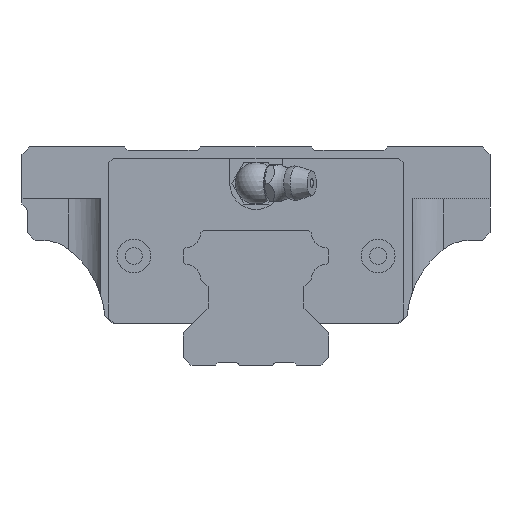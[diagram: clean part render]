
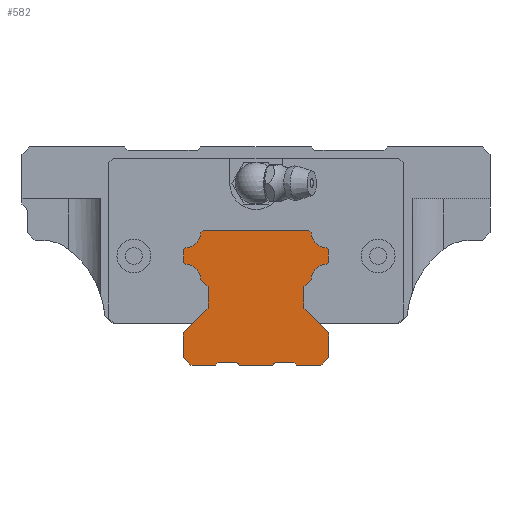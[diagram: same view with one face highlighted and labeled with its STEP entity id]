
A CAD part, front view. The second image highlights one B-rep face of the part: STEP entity #582.
In plain terms, the highlighted planar face has unit normal (0, -1, 0).
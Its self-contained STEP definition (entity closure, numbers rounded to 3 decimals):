
#366=CIRCLE('',#4144,3.1);
#368=CIRCLE('',#4150,3.1);
#379=CIRCLE('',#4183,3.1);
#381=CIRCLE('',#4189,3.1);
#582=ADVANCED_FACE('',(#922),#740,.T.);
#740=PLANE('',#4191);
#922=FACE_OUTER_BOUND('',#1160,.T.);
#1160=EDGE_LOOP('',(#2126,#2127,#2128,#2129,#2130,#2131,#2132,#2133,#2134,
#2135,#2136,#2137,#2138,#2139,#2140,#2141,#2142,#2143,#2144,#2145,#2146,
#2147,#2148,#2149,#2150,#2151,#2152,#2153,#2154,#2155,#2156,#2157));
#2126=ORIENTED_EDGE('',*,*,#3022,.T.);
#2127=ORIENTED_EDGE('',*,*,#3030,.F.);
#2128=ORIENTED_EDGE('',*,*,#3033,.F.);
#2129=ORIENTED_EDGE('',*,*,#3036,.F.);
#2130=ORIENTED_EDGE('',*,*,#3039,.F.);
#2131=ORIENTED_EDGE('',*,*,#3042,.T.);
#2132=ORIENTED_EDGE('',*,*,#3045,.T.);
#2133=ORIENTED_EDGE('',*,*,#3048,.F.);
#2134=ORIENTED_EDGE('',*,*,#3051,.T.);
#2135=ORIENTED_EDGE('',*,*,#3054,.T.);
#2136=ORIENTED_EDGE('',*,*,#3057,.F.);
#2137=ORIENTED_EDGE('',*,*,#3060,.T.);
#2138=ORIENTED_EDGE('',*,*,#3063,.T.);
#2139=ORIENTED_EDGE('',*,*,#3066,.F.);
#2140=ORIENTED_EDGE('',*,*,#3069,.T.);
#2141=ORIENTED_EDGE('',*,*,#3073,.T.);
#2142=ORIENTED_EDGE('',*,*,#3012,.F.);
#2143=ORIENTED_EDGE('',*,*,#3080,.T.);
#2144=ORIENTED_EDGE('',*,*,#3019,.T.);
#2145=ORIENTED_EDGE('',*,*,#3088,.F.);
#2146=ORIENTED_EDGE('',*,*,#3093,.F.);
#2147=ORIENTED_EDGE('',*,*,#3096,.T.);
#2148=ORIENTED_EDGE('',*,*,#3099,.F.);
#2149=ORIENTED_EDGE('',*,*,#3102,.F.);
#2150=ORIENTED_EDGE('',*,*,#3105,.F.);
#2151=ORIENTED_EDGE('',*,*,#3108,.F.);
#2152=ORIENTED_EDGE('',*,*,#3111,.F.);
#2153=ORIENTED_EDGE('',*,*,#3114,.F.);
#2154=ORIENTED_EDGE('',*,*,#3117,.F.);
#2155=ORIENTED_EDGE('',*,*,#3120,.F.);
#2156=ORIENTED_EDGE('',*,*,#3123,.T.);
#2157=ORIENTED_EDGE('',*,*,#3125,.F.);
#2528=VERTEX_POINT('',#6311);
#2529=VERTEX_POINT('',#6313);
#2530=VERTEX_POINT('',#6320);
#2533=VERTEX_POINT('',#6325);
#2536=VERTEX_POINT('',#6332);
#2537=VERTEX_POINT('',#6334);
#2543=VERTEX_POINT('',#6348);
#2545=VERTEX_POINT('',#6354);
#2547=VERTEX_POINT('',#6360);
#2549=VERTEX_POINT('',#6366);
#2551=VERTEX_POINT('',#6372);
#2553=VERTEX_POINT('',#6378);
#2555=VERTEX_POINT('',#6384);
#2557=VERTEX_POINT('',#6390);
#2559=VERTEX_POINT('',#6396);
#2561=VERTEX_POINT('',#6402);
#2563=VERTEX_POINT('',#6408);
#2565=VERTEX_POINT('',#6414);
#2567=VERTEX_POINT('',#6420);
#2569=VERTEX_POINT('',#6426);
#2575=VERTEX_POINT('',#6456);
#2577=VERTEX_POINT('',#6464);
#2579=VERTEX_POINT('',#6470);
#2581=VERTEX_POINT('',#6476);
#2583=VERTEX_POINT('',#6482);
#2585=VERTEX_POINT('',#6488);
#2587=VERTEX_POINT('',#6494);
#2589=VERTEX_POINT('',#6500);
#2591=VERTEX_POINT('',#6506);
#2593=VERTEX_POINT('',#6512);
#2595=VERTEX_POINT('',#6518);
#2597=VERTEX_POINT('',#6524);
#3012=EDGE_CURVE('',#2528,#2529,#3417,.T.);
#3019=EDGE_CURVE('',#2530,#2533,#3421,.T.);
#3022=EDGE_CURVE('',#2537,#2536,#3424,.T.);
#3030=EDGE_CURVE('',#2543,#2536,#3428,.T.);
#3033=EDGE_CURVE('',#2545,#2543,#3431,.T.);
#3036=EDGE_CURVE('',#2547,#2545,#366,.T.);
#3039=EDGE_CURVE('',#2549,#2547,#3435,.T.);
#3042=EDGE_CURVE('',#2549,#2551,#3438,.T.);
#3045=EDGE_CURVE('',#2551,#2553,#3441,.T.);
#3048=EDGE_CURVE('',#2555,#2553,#368,.T.);
#3051=EDGE_CURVE('',#2555,#2557,#3445,.T.);
#3054=EDGE_CURVE('',#2557,#2559,#3448,.T.);
#3057=EDGE_CURVE('',#2561,#2559,#3451,.T.);
#3060=EDGE_CURVE('',#2561,#2563,#3454,.T.);
#3063=EDGE_CURVE('',#2563,#2565,#3457,.T.);
#3066=EDGE_CURVE('',#2567,#2565,#3460,.T.);
#3069=EDGE_CURVE('',#2567,#2569,#3463,.T.);
#3073=EDGE_CURVE('',#2569,#2529,#3464,.T.);
#3080=EDGE_CURVE('',#2528,#2530,#3468,.T.);
#3088=EDGE_CURVE('',#2575,#2533,#3473,.T.);
#3093=EDGE_CURVE('',#2577,#2575,#3476,.T.);
#3096=EDGE_CURVE('',#2577,#2579,#3479,.T.);
#3099=EDGE_CURVE('',#2581,#2579,#3482,.T.);
#3102=EDGE_CURVE('',#2583,#2581,#3485,.T.);
#3105=EDGE_CURVE('',#2585,#2583,#3488,.T.);
#3108=EDGE_CURVE('',#2587,#2585,#3491,.T.);
#3111=EDGE_CURVE('',#2589,#2587,#3494,.T.);
#3114=EDGE_CURVE('',#2591,#2589,#379,.T.);
#3117=EDGE_CURVE('',#2593,#2591,#3498,.T.);
#3120=EDGE_CURVE('',#2595,#2593,#3501,.T.);
#3123=EDGE_CURVE('',#2595,#2597,#3504,.T.);
#3125=EDGE_CURVE('',#2537,#2597,#381,.T.);
#3417=LINE('',#6312,#3788);
#3421=LINE('',#6326,#3792);
#3424=LINE('',#6333,#3795);
#3428=LINE('',#6349,#3799);
#3431=LINE('',#6355,#3802);
#3435=LINE('',#6367,#3806);
#3438=LINE('',#6373,#3809);
#3441=LINE('',#6379,#3812);
#3445=LINE('',#6391,#3816);
#3448=LINE('',#6397,#3819);
#3451=LINE('',#6403,#3822);
#3454=LINE('',#6409,#3825);
#3457=LINE('',#6415,#3828);
#3460=LINE('',#6421,#3831);
#3463=LINE('',#6427,#3834);
#3464=LINE('',#6432,#3835);
#3468=LINE('',#6443,#3839);
#3473=LINE('',#6457,#3844);
#3476=LINE('',#6465,#3847);
#3479=LINE('',#6471,#3850);
#3482=LINE('',#6477,#3853);
#3485=LINE('',#6483,#3856);
#3488=LINE('',#6489,#3859);
#3491=LINE('',#6495,#3862);
#3494=LINE('',#6501,#3865);
#3498=LINE('',#6513,#3869);
#3501=LINE('',#6519,#3872);
#3504=LINE('',#6525,#3875);
#3788=VECTOR('',#5004,1.);
#3792=VECTOR('',#5018,1.);
#3795=VECTOR('',#5023,1.);
#3799=VECTOR('',#5037,1.);
#3802=VECTOR('',#5042,1.);
#3806=VECTOR('',#5054,1.);
#3809=VECTOR('',#5059,1.);
#3812=VECTOR('',#5064,1.);
#3816=VECTOR('',#5076,1.);
#3819=VECTOR('',#5081,1.);
#3822=VECTOR('',#5086,1.);
#3825=VECTOR('',#5091,1.);
#3828=VECTOR('',#5096,1.);
#3831=VECTOR('',#5101,1.);
#3834=VECTOR('',#5106,1.);
#3835=VECTOR('',#5115,1.);
#3839=VECTOR('',#5129,1.);
#3844=VECTOR('',#5144,1.);
#3847=VECTOR('',#5153,1.);
#3850=VECTOR('',#5158,1.);
#3853=VECTOR('',#5163,1.);
#3856=VECTOR('',#5168,1.);
#3859=VECTOR('',#5173,1.);
#3862=VECTOR('',#5178,1.);
#3865=VECTOR('',#5183,1.);
#3869=VECTOR('',#5195,1.);
#3872=VECTOR('',#5200,1.);
#3875=VECTOR('',#5205,1.);
#4144=AXIS2_PLACEMENT_3D('',#6361,#5048,#5049);
#4150=AXIS2_PLACEMENT_3D('',#6385,#5070,#5071);
#4183=AXIS2_PLACEMENT_3D('',#6507,#5189,#5190);
#4189=AXIS2_PLACEMENT_3D('',#6528,#5210,#5211);
#4191=AXIS2_PLACEMENT_3D('',#6530,#5214,#5215);
#5004=DIRECTION('',(-0.707,0.,0.707));
#5018=DIRECTION('',(0.707,0.,0.707));
#5023=DIRECTION('',(-0.707,0.,0.707));
#5037=DIRECTION('',(1.,0.,0.));
#5042=DIRECTION('',(0.707,0.,0.707));
#5048=DIRECTION('',(0.,-1.,0.));
#5049=DIRECTION('',(1.,0.,0.));
#5054=DIRECTION('',(0.707,0.,0.707));
#5059=DIRECTION('',(0.,0.,-1.));
#5064=DIRECTION('',(0.707,0.,-0.707));
#5070=DIRECTION('',(0.,-1.,0.));
#5071=DIRECTION('',(1.,0.,0.));
#5076=DIRECTION('',(0.707,0.,-0.707));
#5081=DIRECTION('',(0.,0.,-1.));
#5086=DIRECTION('',(0.707,0.,0.707));
#5091=DIRECTION('',(0.,0.,-1.));
#5096=DIRECTION('',(0.707,0.,-0.707));
#5101=DIRECTION('',(-1.,0.,0.));
#5106=DIRECTION('',(0.707,0.,0.707));
#5115=DIRECTION('',(1.,0.,0.));
#5129=DIRECTION('',(1.,0.,0.));
#5144=DIRECTION('',(-1.,0.,0.));
#5153=DIRECTION('',(-0.707,0.,0.707));
#5158=DIRECTION('',(1.,0.,0.));
#5163=DIRECTION('',(-0.707,0.,-0.707));
#5168=DIRECTION('',(0.,0.,-1.));
#5173=DIRECTION('',(0.707,0.,-0.707));
#5178=DIRECTION('',(0.,0.,-1.));
#5183=DIRECTION('',(-0.707,0.,-0.707));
#5189=DIRECTION('',(0.,-1.,0.));
#5190=DIRECTION('',(1.,0.,0.));
#5195=DIRECTION('',(-0.707,0.,-0.707));
#5200=DIRECTION('',(0.,0.,-1.));
#5205=DIRECTION('',(-0.707,0.,0.707));
#5210=DIRECTION('',(0.,-1.,0.));
#5211=DIRECTION('',(1.,0.,0.));
#5214=DIRECTION('',(0.,-1.,0.));
#5215=DIRECTION('',(0.,0.,-1.));
#6311=CARTESIAN_POINT('',(-3.2,-167.7,-43.7));
#6312=CARTESIAN_POINT('',(-3.2,-167.7,-43.7));
#6313=CARTESIAN_POINT('',(-3.7,-167.7,-43.2));
#6320=CARTESIAN_POINT('',(3.2,-167.7,-43.7));
#6325=CARTESIAN_POINT('',(3.7,-167.7,-43.2));
#6326=CARTESIAN_POINT('',(3.2,-167.7,-43.7));
#6332=CARTESIAN_POINT('',(10.171,-167.7,-17.77));
#6333=CARTESIAN_POINT('',(10.583,-167.7,-18.182));
#6334=CARTESIAN_POINT('',(10.583,-167.7,-18.182));
#6348=CARTESIAN_POINT('',(-10.171,-167.7,-17.77));
#6349=CARTESIAN_POINT('',(-10.171,-167.7,-17.77));
#6354=CARTESIAN_POINT('',(-10.583,-167.7,-18.182));
#6355=CARTESIAN_POINT('',(-10.583,-167.7,-18.182));
#6360=CARTESIAN_POINT('',(-13.518,-167.7,-21.117));
#6361=CARTESIAN_POINT('',(-13.679,-167.7,-18.021));
#6366=CARTESIAN_POINT('',(-13.93,-167.7,-21.529));
#6367=CARTESIAN_POINT('',(-13.93,-167.7,-21.529));
#6372=CARTESIAN_POINT('',(-13.93,-167.7,-23.871));
#6373=CARTESIAN_POINT('',(-13.93,-167.7,-21.529));
#6378=CARTESIAN_POINT('',(-13.518,-167.7,-24.283));
#6379=CARTESIAN_POINT('',(-13.93,-167.7,-23.871));
#6384=CARTESIAN_POINT('',(-10.583,-167.7,-27.218));
#6385=CARTESIAN_POINT('',(-13.679,-167.7,-27.379));
#6390=CARTESIAN_POINT('',(-9.23,-167.7,-28.571));
#6391=CARTESIAN_POINT('',(-10.583,-167.7,-27.218));
#6396=CARTESIAN_POINT('',(-9.23,-167.7,-32.729));
#6397=CARTESIAN_POINT('',(-9.23,-167.7,-28.571));
#6402=CARTESIAN_POINT('',(-14.,-167.7,-37.499));
#6403=CARTESIAN_POINT('',(-14.,-167.7,-37.499));
#6408=CARTESIAN_POINT('',(-14.,-167.7,-42.2));
#6409=CARTESIAN_POINT('',(-14.,-167.7,-37.499));
#6414=CARTESIAN_POINT('',(-12.5,-167.7,-43.7));
#6415=CARTESIAN_POINT('',(-14.,-167.7,-42.2));
#6420=CARTESIAN_POINT('',(-7.8,-167.7,-43.7));
#6421=CARTESIAN_POINT('',(-7.8,-167.7,-43.7));
#6426=CARTESIAN_POINT('',(-7.3,-167.7,-43.2));
#6427=CARTESIAN_POINT('',(-7.8,-167.7,-43.7));
#6432=CARTESIAN_POINT('',(-7.3,-167.7,-43.2));
#6443=CARTESIAN_POINT('',(-3.2,-167.7,-43.7));
#6456=CARTESIAN_POINT('',(7.3,-167.7,-43.2));
#6457=CARTESIAN_POINT('',(7.3,-167.7,-43.2));
#6464=CARTESIAN_POINT('',(7.8,-167.7,-43.7));
#6465=CARTESIAN_POINT('',(7.8,-167.7,-43.7));
#6470=CARTESIAN_POINT('',(12.5,-167.7,-43.7));
#6471=CARTESIAN_POINT('',(7.8,-167.7,-43.7));
#6476=CARTESIAN_POINT('',(14.,-167.7,-42.2));
#6477=CARTESIAN_POINT('',(14.,-167.7,-42.2));
#6482=CARTESIAN_POINT('',(14.,-167.7,-37.499));
#6483=CARTESIAN_POINT('',(14.,-167.7,-37.499));
#6488=CARTESIAN_POINT('',(9.23,-167.7,-32.729));
#6489=CARTESIAN_POINT('',(9.23,-167.7,-32.729));
#6494=CARTESIAN_POINT('',(9.23,-167.7,-28.571));
#6495=CARTESIAN_POINT('',(9.23,-167.7,-28.571));
#6500=CARTESIAN_POINT('',(10.583,-167.7,-27.218));
#6501=CARTESIAN_POINT('',(10.583,-167.7,-27.218));
#6506=CARTESIAN_POINT('',(13.518,-167.7,-24.283));
#6507=CARTESIAN_POINT('',(13.679,-167.7,-27.379));
#6512=CARTESIAN_POINT('',(13.93,-167.7,-23.871));
#6513=CARTESIAN_POINT('',(13.93,-167.7,-23.871));
#6518=CARTESIAN_POINT('',(13.93,-167.7,-21.529));
#6519=CARTESIAN_POINT('',(13.93,-167.7,-21.529));
#6524=CARTESIAN_POINT('',(13.518,-167.7,-21.117));
#6525=CARTESIAN_POINT('',(13.93,-167.7,-21.529));
#6528=CARTESIAN_POINT('',(13.679,-167.7,-18.021));
#6530=CARTESIAN_POINT('',(-13.679,-167.7,-18.021));
